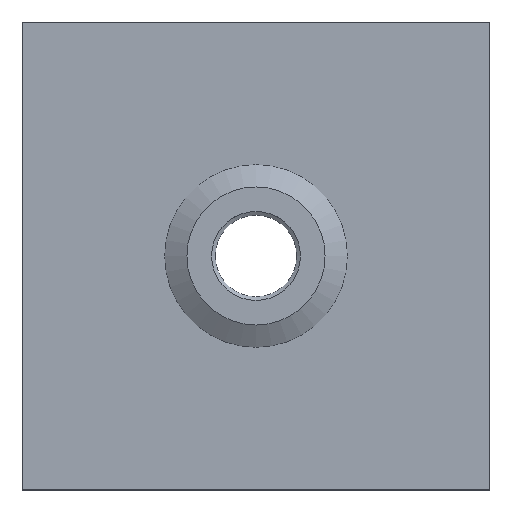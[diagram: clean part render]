
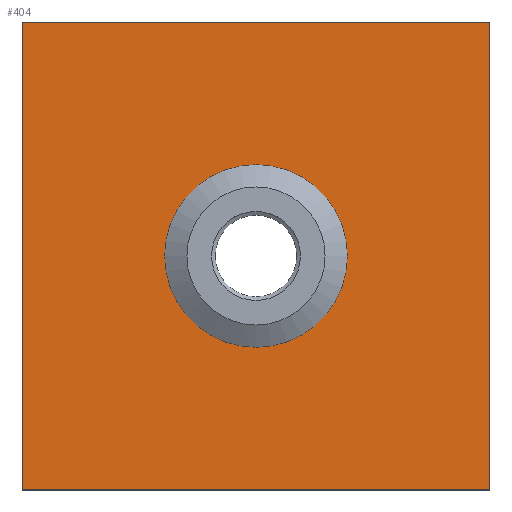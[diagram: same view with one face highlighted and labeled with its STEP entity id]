
A CAD part, top view. The second image highlights one B-rep face of the part: STEP entity #404.
In plain terms, the highlighted planar face has unit normal (0, 0, 1).
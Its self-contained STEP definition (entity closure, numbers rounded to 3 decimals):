
#22=LINE($,#661,#34);
#26=LINE($,#669,#38);
#29=LINE($,#675,#41);
#32=LINE($,#680,#44);
#34=VECTOR($,#544,500.);
#38=VECTOR($,#550,500.);
#41=VECTOR($,#555,500.);
#44=VECTOR($,#560,500.);
#70=PLANE($,#456);
#92=FACE_BOUND($,#161,.T.);
#93=FACE_BOUND($,#162,.T.);
#161=EDGE_LOOP($,(#322));
#162=EDGE_LOOP($,(#323,#324,#325,#326));
#194=CIRCLE($,#449,70.);
#218=VERTEX_POINT($,#654);
#220=VERTEX_POINT($,#659);
#221=VERTEX_POINT($,#660);
#224=VERTEX_POINT($,#668);
#226=VERTEX_POINT($,#674);
#250=EDGE_CURVE($,#218,#218,#194,.T.);
#252=EDGE_CURVE($,#220,#221,#22,.T.);
#256=EDGE_CURVE($,#221,#224,#26,.T.);
#259=EDGE_CURVE($,#224,#226,#29,.T.);
#262=EDGE_CURVE($,#226,#220,#32,.T.);
#322=ORIENTED_EDGE($,*,*,#250,.T.);
#323=ORIENTED_EDGE($,*,*,#252,.F.);
#324=ORIENTED_EDGE($,*,*,#262,.F.);
#325=ORIENTED_EDGE($,*,*,#259,.F.);
#326=ORIENTED_EDGE($,*,*,#256,.F.);
#404=ADVANCED_FACE($,(#92,#93),#70,.T.);
#449=AXIS2_PLACEMENT_3D($,#655,#538,#539);
#456=AXIS2_PLACEMENT_3D($,#683,#564,#565);
#538=DIRECTION('center_axis',(0.,0.,-1.));
#539=DIRECTION('ref_axis',(-1.,0.,0.));
#544=DIRECTION($,(0.,1.,0.));
#550=DIRECTION($,(1.,0.,0.));
#555=DIRECTION($,(0.,-1.,0.));
#560=DIRECTION($,(-1.,0.,0.));
#564=DIRECTION('center_axis',(0.,0.,1.));
#565=DIRECTION('ref_axis',(1.,0.,0.));
#654=CARTESIAN_POINT('',(70.,0.,1.3));
#655=CARTESIAN_POINT('Origin',(0.,0.,1.3));
#659=CARTESIAN_POINT('',(-250.,-250.,1.3));
#660=CARTESIAN_POINT('',(-250.,250.,1.3));
#661=CARTESIAN_POINT($,(-250.,250.,1.3));
#668=CARTESIAN_POINT('',(250.,250.,1.3));
#669=CARTESIAN_POINT($,(250.,250.,1.3));
#674=CARTESIAN_POINT('',(250.,-250.,1.3));
#675=CARTESIAN_POINT($,(250.,-250.,1.3));
#680=CARTESIAN_POINT($,(-250.,-250.,1.3));
#683=CARTESIAN_POINT('Origin',(0.,0.,
1.3));
